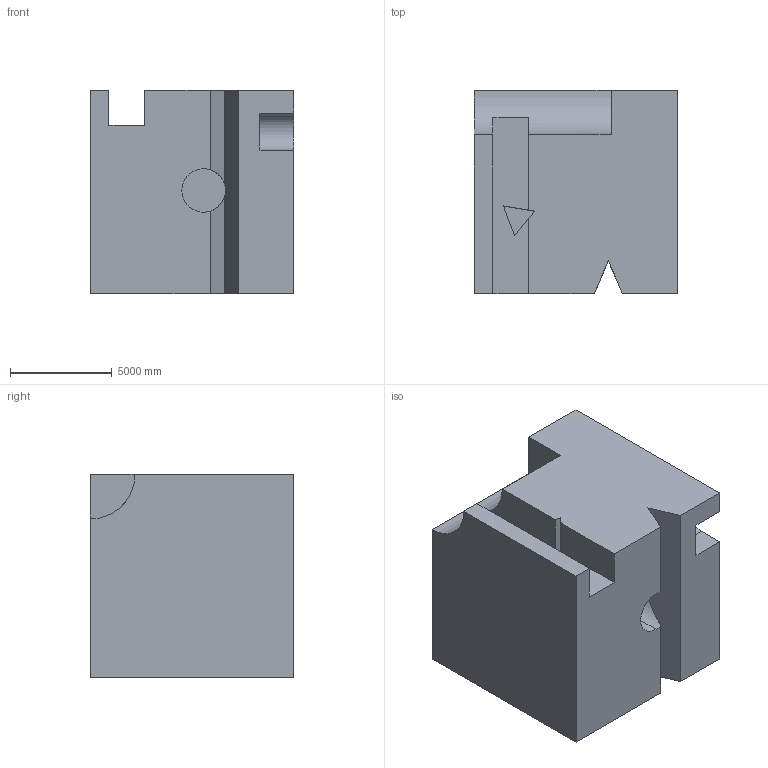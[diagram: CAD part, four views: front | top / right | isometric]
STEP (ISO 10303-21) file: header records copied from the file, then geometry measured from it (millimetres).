
FILE_DESCRIPTION (( 'STEP AP203' ), '1' );
FILE_NAME ('1884.STEP', '2022-08-19T13:57:47', ( 'user' ), ( '' ), 'SwSTEP 2.0', 'SolidWorks 2021', '' );
FILE_SCHEMA (( 'CONFIG_CONTROL_DESIGN' ));
Length unit declared in the file: centimetre
Products named in the file (1): 1884
Bounding box: 10000 x 10000 x 10000 mm (x, y, z)
Volume: 870720247512.8 mm3; surface area: 801899491.3 mm2
Topology: 1 solids, 1 shells, 42 faces, 111 edges, 74 vertices
Faces by surface type: plane 38, cylinder 4
Entity records: 1363 total; most frequent: CARTESIAN_POINT 237, ORIENTED_EDGE 222, DIRECTION 205, EDGE_CURVE 111, VECTOR 97, LINE 97, VERTEX_POINT 74, AXIS2_PLACEMENT_3D 54
